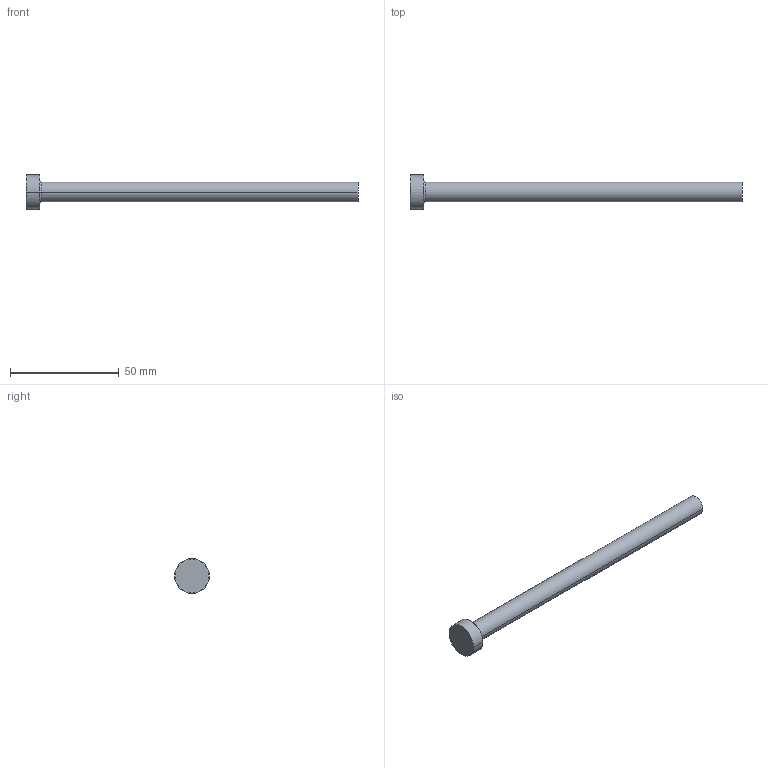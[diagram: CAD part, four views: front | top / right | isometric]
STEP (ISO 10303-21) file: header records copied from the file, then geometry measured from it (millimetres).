
FILE_DESCRIPTION (( 'STEP AP214' ), '1' );
FILE_NAME ('P24-6.STEP', '2020-03-12T09:50:13', ( '' ), ( '' ), 'SwSTEP 2.0', 'SolidWorks 2018', '' );
FILE_SCHEMA (( 'AUTOMOTIVE_DESIGN' ));
Length unit declared in the file: inch
Products named in the file (1): P24-6
Bounding box: 152.4 x 15.88 x 15.88 mm (x, y, z)
Volume: 10801.8 mm3; surface area: 4882.2 mm2
Topology: 1 solids, 1 shells, 13 faces, 24 edges, 14 vertices
Faces by surface type: cone 4, cylinder 4, plane 3, torus 2
Entity records: 366 total; most frequent: DIRECTION 68, CARTESIAN_POINT 52, ORIENTED_EDGE 48, AXIS2_PLACEMENT_3D 30, EDGE_CURVE 24, CIRCLE 16, VERTEX_POINT 14, EDGE_LOOP 14
